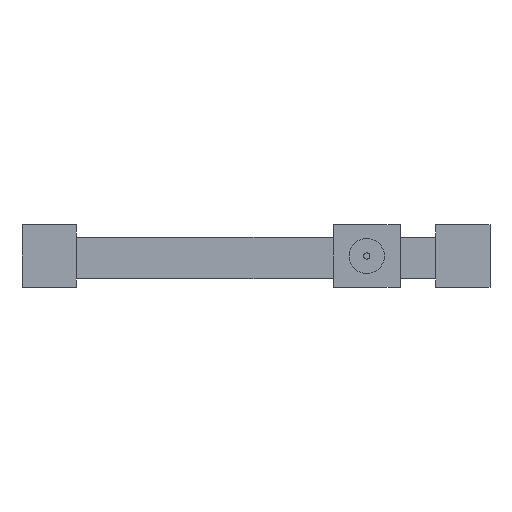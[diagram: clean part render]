
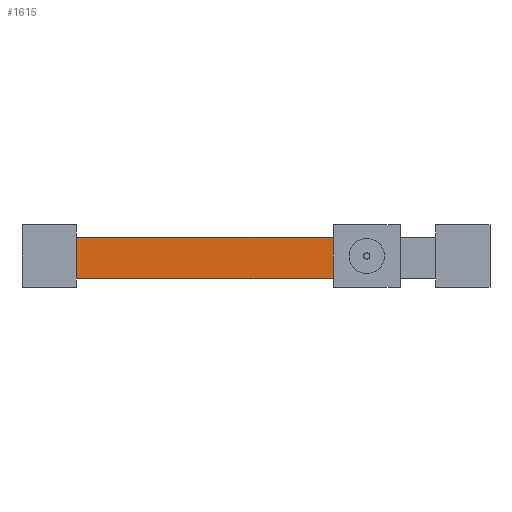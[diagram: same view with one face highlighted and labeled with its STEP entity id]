
A CAD part, front view. The second image highlights one B-rep face of the part: STEP entity #1615.
In plain terms, the highlighted planar face has unit normal (0, -1, 0).
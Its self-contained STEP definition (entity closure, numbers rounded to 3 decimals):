
#22 = VERTEX_POINT('',#23);
#23 = CARTESIAN_POINT('',(0.,0.,10.));
#32 = PLANE('',#33);
#33 = AXIS2_PLACEMENT_3D('',#34,#35,#36);
#34 = CARTESIAN_POINT('',(0.,0.,0.));
#35 = DIRECTION('',(1.,0.,-0.));
#36 = DIRECTION('',(0.,0.,1.));
#44 = PLANE('',#45);
#45 = AXIS2_PLACEMENT_3D('',#46,#47,#48);
#46 = CARTESIAN_POINT('',(0.,0.,10.));
#47 = DIRECTION('',(0.,0.,1.));
#48 = DIRECTION('',(1.,0.,-0.));
#56 = EDGE_CURVE('',#57,#22,#59,.T.);
#57 = VERTEX_POINT('',#58);
#58 = CARTESIAN_POINT('',(0.,0.,0.));
#59 = SURFACE_CURVE('',#60,(#64,#71),.PCURVE_S1.);
#60 = LINE('',#61,#62);
#61 = CARTESIAN_POINT('',(0.,0.,0.));
#62 = VECTOR('',#63,1.);
#63 = DIRECTION('',(0.,0.,1.));
#64 = PCURVE('',#32,#65);
#65 = DEFINITIONAL_REPRESENTATION('',(#66),#70);
#66 = LINE('',#67,#68);
#67 = CARTESIAN_POINT('',(0.,0.));
#68 = VECTOR('',#69,1.);
#69 = DIRECTION('',(1.,0.));
#70 = ( GEOMETRIC_REPRESENTATION_CONTEXT(2) 
PARAMETRIC_REPRESENTATION_CONTEXT() REPRESENTATION_CONTEXT('2D SPACE',''
  ) );
#71 = PCURVE('',#72,#77);
#72 = PLANE('',#73);
#73 = AXIS2_PLACEMENT_3D('',#74,#75,#76);
#74 = CARTESIAN_POINT('',(0.,0.,0.));
#75 = DIRECTION('',(-0.,1.,0.));
#76 = DIRECTION('',(0.,0.,1.));
#77 = DEFINITIONAL_REPRESENTATION('',(#78),#82);
#78 = LINE('',#79,#80);
#79 = CARTESIAN_POINT('',(0.,0.));
#80 = VECTOR('',#81,1.);
#81 = DIRECTION('',(1.,0.));
#82 = ( GEOMETRIC_REPRESENTATION_CONTEXT(2) 
PARAMETRIC_REPRESENTATION_CONTEXT() REPRESENTATION_CONTEXT('2D SPACE',''
  ) );
#100 = PLANE('',#101);
#101 = AXIS2_PLACEMENT_3D('',#102,#103,#104);
#102 = CARTESIAN_POINT('',(0.,0.,0.));
#103 = DIRECTION('',(0.,0.,1.));
#104 = DIRECTION('',(1.,0.,-0.));
#142 = EDGE_CURVE('',#22,#143,#145,.T.);
#143 = VERTEX_POINT('',#144);
#144 = CARTESIAN_POINT('',(61.5,0.,10.));
#145 = SURFACE_CURVE('',#146,(#150,#157),.PCURVE_S1.);
#146 = LINE('',#147,#148);
#147 = CARTESIAN_POINT('',(0.,0.,10.));
#148 = VECTOR('',#149,1.);
#149 = DIRECTION('',(1.,0.,-0.));
#150 = PCURVE('',#44,#151);
#151 = DEFINITIONAL_REPRESENTATION('',(#152),#156);
#152 = LINE('',#153,#154);
#153 = CARTESIAN_POINT('',(0.,0.));
#154 = VECTOR('',#155,1.);
#155 = DIRECTION('',(1.,0.));
#156 = ( GEOMETRIC_REPRESENTATION_CONTEXT(2) 
PARAMETRIC_REPRESENTATION_CONTEXT() REPRESENTATION_CONTEXT('2D SPACE',''
  ) );
#157 = PCURVE('',#72,#158);
#158 = DEFINITIONAL_REPRESENTATION('',(#159),#163);
#159 = LINE('',#160,#161);
#160 = CARTESIAN_POINT('',(10.,0.));
#161 = VECTOR('',#162,1.);
#162 = DIRECTION('',(0.,1.));
#163 = ( GEOMETRIC_REPRESENTATION_CONTEXT(2) 
PARAMETRIC_REPRESENTATION_CONTEXT() REPRESENTATION_CONTEXT('2D SPACE',''
  ) );
#1184 = EDGE_CURVE('',#57,#1185,#1187,.T.);
#1185 = VERTEX_POINT('',#1186);
#1186 = CARTESIAN_POINT('',(61.5,0.,0.));
#1187 = SURFACE_CURVE('',#1188,(#1192,#1199),.PCURVE_S1.);
#1188 = LINE('',#1189,#1190);
#1189 = CARTESIAN_POINT('',(0.,0.,0.));
#1190 = VECTOR('',#1191,1.);
#1191 = DIRECTION('',(1.,0.,-0.));
#1192 = PCURVE('',#100,#1193);
#1193 = DEFINITIONAL_REPRESENTATION('',(#1194),#1198);
#1194 = LINE('',#1195,#1196);
#1195 = CARTESIAN_POINT('',(0.,0.));
#1196 = VECTOR('',#1197,1.);
#1197 = DIRECTION('',(1.,0.));
#1198 = ( GEOMETRIC_REPRESENTATION_CONTEXT(2) 
PARAMETRIC_REPRESENTATION_CONTEXT() REPRESENTATION_CONTEXT('2D SPACE',''
  ) );
#1199 = PCURVE('',#72,#1200);
#1200 = DEFINITIONAL_REPRESENTATION('',(#1201),#1205);
#1201 = LINE('',#1202,#1203);
#1202 = CARTESIAN_POINT('',(0.,0.));
#1203 = VECTOR('',#1204,1.);
#1204 = DIRECTION('',(0.,1.));
#1205 = ( GEOMETRIC_REPRESENTATION_CONTEXT(2) 
PARAMETRIC_REPRESENTATION_CONTEXT() REPRESENTATION_CONTEXT('2D SPACE',''
  ) );
#1615 = ADVANCED_FACE('',(#1616),#72,.F.);
#1616 = FACE_BOUND('',#1617,.F.);
#1617 = EDGE_LOOP('',(#1618,#1619,#1620,#1621));
#1618 = ORIENTED_EDGE('',*,*,#1184,.F.);
#1619 = ORIENTED_EDGE('',*,*,#56,.T.);
#1620 = ORIENTED_EDGE('',*,*,#142,.T.);
#1621 = ORIENTED_EDGE('',*,*,#1622,.F.);
#1622 = EDGE_CURVE('',#1185,#143,#1623,.T.);
#1623 = SURFACE_CURVE('',#1624,(#1628,#1635),.PCURVE_S1.);
#1624 = LINE('',#1625,#1626);
#1625 = CARTESIAN_POINT('',(61.5,0.,-2.));
#1626 = VECTOR('',#1627,1.);
#1627 = DIRECTION('',(0.,0.,1.));
#1628 = PCURVE('',#72,#1629);
#1629 = DEFINITIONAL_REPRESENTATION('',(#1630),#1634);
#1630 = LINE('',#1631,#1632);
#1631 = CARTESIAN_POINT('',(-2.,61.5));
#1632 = VECTOR('',#1633,1.);
#1633 = DIRECTION('',(1.,0.));
#1634 = ( GEOMETRIC_REPRESENTATION_CONTEXT(2) 
PARAMETRIC_REPRESENTATION_CONTEXT() REPRESENTATION_CONTEXT('2D SPACE',''
  ) );
#1635 = PCURVE('',#1636,#1641);
#1636 = PLANE('',#1637);
#1637 = AXIS2_PLACEMENT_3D('',#1638,#1639,#1640);
#1638 = CARTESIAN_POINT('',(61.5,-13.,-2.));
#1639 = DIRECTION('',(1.,0.,-0.));
#1640 = DIRECTION('',(0.,0.,1.));
#1641 = DEFINITIONAL_REPRESENTATION('',(#1642),#1646);
#1642 = LINE('',#1643,#1644);
#1643 = CARTESIAN_POINT('',(0.,-13.));
#1644 = VECTOR('',#1645,1.);
#1645 = DIRECTION('',(1.,0.));
#1646 = ( GEOMETRIC_REPRESENTATION_CONTEXT(2) 
PARAMETRIC_REPRESENTATION_CONTEXT() REPRESENTATION_CONTEXT('2D SPACE',''
  ) );
